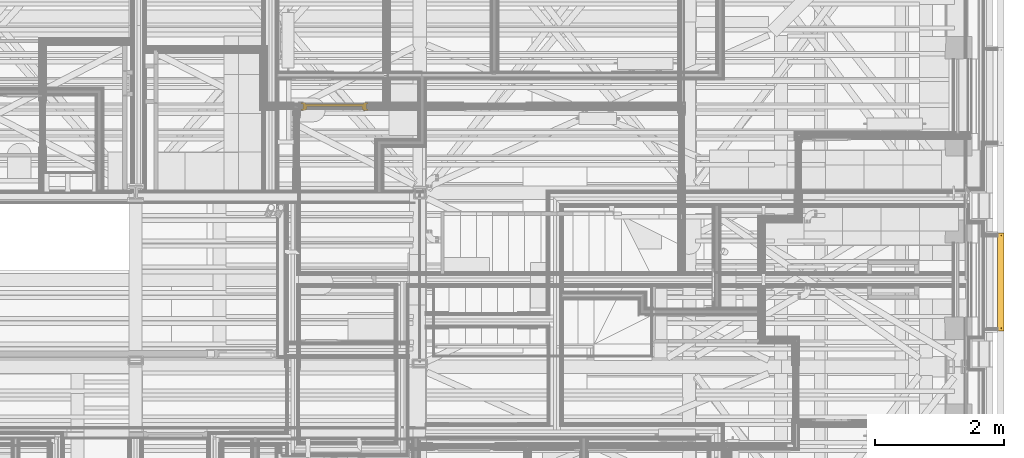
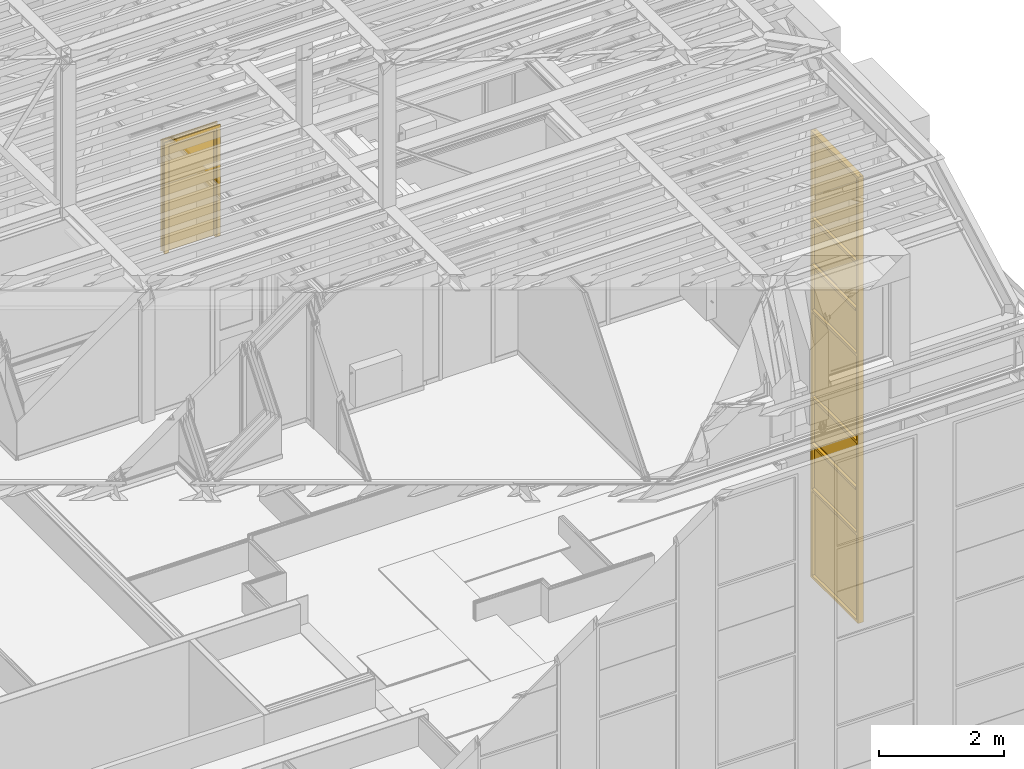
# One storey, part 146 of 183: 1 curtain wall, 1 door.
"""IFC2X3 building model written with IfcOpenShell, lengths in metres."""

from ifc_helpers import new_model, entity, si_unit, converted_unit, derived_unit, money_unit, direction, frame, origin_with_axes, place, context, subcontext, project, spatial, faceted_brep, material, type_object, element, save


model = new_model("IFC2X3")

# Units and contexts
model_context = context("Model", 3, precision=1e-05, world=origin_with_axes(), true_north=direction((0.0, 1.0)))
body_context = subcontext(model_context, "Body", "Model", "MODEL_VIEW", scale=1.0)
ifc_project = project(units=[si_unit("LENGTHUNIT", "METRE"), si_unit("AREAUNIT", "SQUARE_METRE"), si_unit("VOLUMEUNIT", "CUBIC_METRE"), si_unit("ABSORBEDDOSEUNIT", "GRAY"), si_unit("AMOUNTOFSUBSTANCEUNIT", "MOLE"), si_unit("DOSEEQUIVALENTUNIT", "SIEVERT"), si_unit("ELECTRICCAPACITANCEUNIT", "FARAD"), si_unit("ELECTRICCHARGEUNIT", "COULOMB"), si_unit("ELECTRICCONDUCTANCEUNIT", "SIEMENS"), si_unit("ELECTRICCURRENTUNIT", "AMPERE"), si_unit("ELECTRICRESISTANCEUNIT", "OHM"), si_unit("ELECTRICVOLTAGEUNIT", "VOLT"), si_unit("ENERGYUNIT", "JOULE"), si_unit("FORCEUNIT", "NEWTON"), si_unit("FREQUENCYUNIT", "HERTZ"), si_unit("ILLUMINANCEUNIT", "LUX"), si_unit("INDUCTANCEUNIT", "HENRY"), si_unit("LUMINOUSFLUXUNIT", "LUMEN"), si_unit("LUMINOUSINTENSITYUNIT", "CANDELA"), si_unit("MAGNETICFLUXDENSITYUNIT", "TESLA"), si_unit("MAGNETICFLUXUNIT", "WEBER"), si_unit("MASSUNIT", "GRAM"), converted_unit("PLANEANGLEUNIT", "degree", entity("IfcReal", 0.0174532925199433), si_unit("PLANEANGLEUNIT", "RADIAN"), dimensions=[0, 0, 0, 0, 0, 0, 0]), si_unit("POWERUNIT", "WATT"), si_unit("PRESSUREUNIT", "PASCAL"), si_unit("RADIOACTIVITYUNIT", "BECQUEREL"), si_unit("SOLIDANGLEUNIT", "STERADIAN"), si_unit("THERMODYNAMICTEMPERATUREUNIT", "KELVIN"), si_unit("TIMEUNIT", "SECOND"), derived_unit("ACCELERATIONUNIT", [(si_unit("LENGTHUNIT", "METRE"), 1), (si_unit("TIMEUNIT", "SECOND"), -2)]), derived_unit("ANGULARVELOCITYUNIT", [(converted_unit("PLANEANGLEUNIT", "degree", entity("IfcReal", 0.0174532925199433), si_unit("PLANEANGLEUNIT", "RADIAN"), dimensions=[0, 0, 0, 0, 0, 0, 0]), 1), (si_unit("TIMEUNIT", "SECOND"), -1)]), derived_unit("CURVATUREUNIT", [(converted_unit("PLANEANGLEUNIT", "degree", entity("IfcReal", 0.0174532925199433), si_unit("PLANEANGLEUNIT", "RADIAN"), dimensions=[0, 0, 0, 0, 0, 0, 0]), 1), (si_unit("LENGTHUNIT", "METRE"), -1)]), derived_unit("DYNAMICVISCOSITYUNIT", [(si_unit("PRESSUREUNIT", "PASCAL"), 1), (si_unit("TIMEUNIT", "SECOND"), 1)]), derived_unit("HEATFLUXDENSITYUNIT", [(si_unit("POWERUNIT", "WATT"), 1), (si_unit("LENGTHUNIT", "METRE"), -2)]), derived_unit("HEATINGVALUEUNIT", [(si_unit("ENERGYUNIT", "JOULE"), 1), (si_unit("MASSUNIT", "GRAM"), -1)]), derived_unit("INTEGERCOUNTRATEUNIT", [(si_unit("TIMEUNIT", "SECOND"), -1)]), derived_unit("IONCONCENTRATIONUNIT", [(si_unit("MASSUNIT", "GRAM"), 1), (si_unit("VOLUMEUNIT", "CUBIC_METRE"), -1)]), derived_unit("ISOTHERMALMOISTURECAPACITYUNIT", [(si_unit("VOLUMEUNIT", "CUBIC_METRE"), 1), (si_unit("MASSUNIT", "GRAM"), -1)]), derived_unit("KINEMATICVISCOSITYUNIT", [(si_unit("AREAUNIT", "SQUARE_METRE"), 1), (si_unit("TIMEUNIT", "SECOND"), -1)]), derived_unit("LINEARFORCEUNIT", [(si_unit("FORCEUNIT", "NEWTON"), 1), (si_unit("LENGTHUNIT", "METRE"), -1)]), derived_unit("LINEARMOMENTUNIT", [(si_unit("FORCEUNIT", "NEWTON"), 1), (si_unit("LENGTHUNIT", "METRE"), -1)]), derived_unit("LINEARSTIFFNESSUNIT", [(si_unit("FORCEUNIT", "NEWTON"), 1), (si_unit("LENGTHUNIT", "METRE"), -1)]), derived_unit("LINEARVELOCITYUNIT", [(si_unit("LENGTHUNIT", "METRE"), 1), (si_unit("TIMEUNIT", "SECOND"), -1)]), derived_unit("LUMINOUSINTENSITYDISTRIBUTIONUNIT", [(si_unit("LUMINOUSINTENSITYUNIT", "CANDELA"), 1), (si_unit("LUMINOUSFLUXUNIT", "LUMEN"), -1)]), derived_unit("MASSDENSITYUNIT", [(si_unit("MASSUNIT", "GRAM"), 1), (si_unit("VOLUMEUNIT", "CUBIC_METRE"), -1)]), derived_unit("MASSFLOWRATEUNIT", [(si_unit("MASSUNIT", "GRAM"), 1), (si_unit("TIMEUNIT", "SECOND"), -1)]), derived_unit("MASSPERLENGTHUNIT", [(si_unit("MASSUNIT", "GRAM"), 1), (si_unit("LENGTHUNIT", "METRE"), -1)]), derived_unit("MODULUSOFELASTICITYUNIT", [(si_unit("FORCEUNIT", "NEWTON"), 1), (si_unit("AREAUNIT", "SQUARE_METRE"), -1)]), derived_unit("MODULUSOFLINEARSUBGRADEREACTIONUNIT", [(si_unit("FORCEUNIT", "NEWTON"), 1), (si_unit("LENGTHUNIT", "METRE"), -2)]), derived_unit("MODULUSOFROTATIONALSUBGRADEREACTIONUNIT", [(si_unit("FORCEUNIT", "NEWTON"), 1), (si_unit("LENGTHUNIT", "METRE"), 1)]), derived_unit("MODULUSOFSUBGRADEREACTIONUNIT", [(si_unit("FORCEUNIT", "NEWTON"), 1), (si_unit("VOLUMEUNIT", "CUBIC_METRE"), -1)]), derived_unit("MOISTUREDIFFUSIVITYUNIT", [(si_unit("VOLUMEUNIT", "CUBIC_METRE"), 1), (si_unit("TIMEUNIT", "SECOND"), -1)]), derived_unit("MOLECULARWEIGHTUNIT", [(si_unit("MASSUNIT", "GRAM"), 1), (si_unit("AMOUNTOFSUBSTANCEUNIT", "MOLE"), -1)]), derived_unit("PLANARFORCEUNIT", [(si_unit("FORCEUNIT", "NEWTON"), 1), (si_unit("LENGTHUNIT", "METRE"), -2)]), derived_unit("ROTATIONALFREQUENCYUNIT", [(si_unit("TIMEUNIT", "SECOND"), -1)]), derived_unit("ROTATIONALMASSUNIT", [(si_unit("MASSUNIT", "GRAM"), 1), (si_unit("LENGTHUNIT", "METRE"), 2)]), derived_unit("ROTATIONALSTIFFNESSUNIT", [(si_unit("FORCEUNIT", "NEWTON"), 1), (si_unit("LENGTHUNIT", "METRE"), 1), (converted_unit("PLANEANGLEUNIT", "degree", entity("IfcReal", 0.0174532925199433), si_unit("PLANEANGLEUNIT", "RADIAN"), dimensions=[0, 0, 0, 0, 0, 0, 0]), -1)]), derived_unit("SECTIONAREAINTEGRALUNIT", [(si_unit("LENGTHUNIT", "METRE"), 5)]), derived_unit("SECTIONMODULUSUNIT", [(si_unit("LENGTHUNIT", "METRE"), 3)]), derived_unit("SHEARMODULUSUNIT", [(si_unit("FORCEUNIT", "NEWTON"), 1), (si_unit("AREAUNIT", "SQUARE_METRE"), -1)]), derived_unit("SOUNDPOWERUNIT", [(si_unit("ENERGYUNIT", "JOULE"), 1), (si_unit("TIMEUNIT", "SECOND"), -1)]), derived_unit("SPECIFICHEATCAPACITYUNIT", [(si_unit("FORCEUNIT", "NEWTON"), 1), (si_unit("MASSUNIT", "GRAM"), -1), (si_unit("THERMODYNAMICTEMPERATUREUNIT", "KELVIN"), -1)]), derived_unit("TEMPERATUREGRADIENTUNIT", [(si_unit("THERMODYNAMICTEMPERATUREUNIT", "KELVIN"), 1), (si_unit("LENGTHUNIT", "METRE"), -1)]), derived_unit("THERMALADMITTANCEUNIT", [(si_unit("POWERUNIT", "WATT"), 1), (si_unit("AREAUNIT", "SQUARE_METRE"), -1), (si_unit("THERMODYNAMICTEMPERATUREUNIT", "KELVIN"), -1)]), derived_unit("THERMALCONDUCTANCEUNIT", [(si_unit("POWERUNIT", "WATT"), 1), (si_unit("LENGTHUNIT", "METRE"), -1), (si_unit("THERMODYNAMICTEMPERATUREUNIT", "KELVIN"), -1)]), derived_unit("THERMALEXPANSIONCOEFFICIENTUNIT", [(si_unit("THERMODYNAMICTEMPERATUREUNIT", "KELVIN"), -1)]), derived_unit("THERMALRESISTANCEUNIT", [(si_unit("AREAUNIT", "SQUARE_METRE"), 1), (si_unit("POWERUNIT", "WATT"), -1)]), derived_unit("THERMALTRANSMITTANCEUNIT", [(si_unit("POWERUNIT", "WATT"), 1), (si_unit("AREAUNIT", "SQUARE_METRE"), -1), (si_unit("THERMODYNAMICTEMPERATUREUNIT", "KELVIN"), -1)]), derived_unit("TORQUEUNIT", [(si_unit("FORCEUNIT", "NEWTON"), 1), (si_unit("LENGTHUNIT", "METRE"), 1)]), derived_unit("VAPORPERMEABILITYUNIT", [(si_unit("MASSUNIT", "GRAM"), 1), (si_unit("TIMEUNIT", "SECOND"), -1)]), derived_unit("VOLUMETRICFLOWRATEUNIT", [(si_unit("VOLUMEUNIT", "CUBIC_METRE"), 1), (si_unit("TIMEUNIT", "SECOND"), -1)]), derived_unit("WARPINGCONSTANTUNIT", [(si_unit("LENGTHUNIT", "METRE"), 6)]), derived_unit("WARPINGMOMENTUNIT", [(si_unit("FORCEUNIT", "NEWTON"), 1), (si_unit("LENGTHUNIT", "METRE"), 2)]), money_unit("GBP")], contexts=[model_context])

# Site, building, storey
site_placement = place(None, origin_with_axes())
site = spatial("IfcSite", under=ifc_project, at=site_placement, Name="Site", CompositionType="ELEMENT")
building_placement = place(site_placement, origin_with_axes())
building = spatial("IfcBuilding", under=site, at=building_placement, Name="Building01", CompositionType="ELEMENT")
storey_placement = place(building_placement, frame((0.0, 0.0, 5.15), z_axis=(0.0, 0.0, 1.0), x_axis=(1.0, 0.0, 0.0)))
storey = spatial("IfcBuildingStorey", under=building, at=storey_placement, Name="1F", CompositionType="ELEMENT", Elevation=5.15)

# Curtain wall
ifc_material_1 = material(Name="A-CurtainWall_Frame")
curtain_wall_type = type_object("IfcCurtainWallType", Name="Pattern - Maximum Spacing", PredefinedType="NOTDEFINED")
curtain_wall_placement = place(storey_placement, frame((0.0, 0.0, -5.15), z_axis=(0.0, 0.0, 1.0), x_axis=(1.0, 0.0, 0.0)))
element("IfcCurtainWall", 1, at=curtain_wall_placement, inside=storey, type_object=curtain_wall_type, material=ifc_material_1, Name="29", ObjectType="Pattern - Maximum Spacing", context=body_context, shape_type="Brep", body=[
    faceted_brep([(26.935, 6.687326, 6.050108), (26.945, 6.687326, 6.050108), (26.945, 6.687326, 7.734233), (26.935, 6.687326, 7.734233), (26.935, 8.147326, 6.050108), (26.945, 8.147326, 6.050108), (26.935, 8.147326, 7.734233), (26.945, 8.147326, 7.734233)], [[[0, 1, 2, 3]], [[4, 5, 1, 0]], [[6, 7, 5, 4]], [[3, 2, 7, 6]], [[1, 5, 7, 2]], [[3, 6, 4, 0]]]),
    faceted_brep([(26.935, 6.687326, 6.020108), (26.945, 6.687326, 6.020108), (26.945, 6.707326, 6.020108), (26.98, 6.707326, 6.020108), (26.98, 6.657326, 6.020108), (26.88, 6.657326, 6.020108), (26.88, 6.707326, 6.020108), (26.935, 6.707326, 6.020108), (26.935, 6.707326, 7.739233), (26.935, 6.687326, 7.739233), (26.945, 6.687326, 7.739233), (26.945, 6.707326, 7.739233), (26.98, 6.707326, 7.739233), (26.98, 6.657326, 7.739233), (26.88, 6.657326, 7.739233), (26.88, 6.707326, 7.739233)], [[[0, 1, 2, 3, 4, 5, 6, 7]], [[7, 8, 9, 0]], [[0, 9, 10, 1]], [[1, 10, 11, 2]], [[2, 11, 12, 3]], [[3, 12, 13, 4]], [[4, 13, 14, 5]], [[5, 14, 15, 6]], [[6, 15, 8, 7]]]),
    faceted_brep([(26.935, 8.127326, 6.050108), (26.945, 8.127326, 6.050108), (26.945, 8.127326, 6.070108), (26.98, 8.127326, 6.070108), (26.98, 8.127326, 6.020108), (26.88, 8.127326, 6.020108), (26.88, 8.127326, 6.070108), (26.935, 8.127326, 6.070108), (26.935, 6.707326, 6.070108), (26.935, 6.707326, 6.050108), (26.945, 6.707326, 6.050108), (26.945, 6.707326, 6.070108), (26.98, 6.707326, 6.070108), (26.98, 6.707326, 6.020108), (26.88, 6.707326, 6.020108), (26.88, 6.707326, 6.070108)], [[[0, 1, 2, 3, 4, 5, 6, 7]], [[7, 8, 9, 0]], [[0, 9, 10, 1]], [[1, 10, 11, 2]], [[2, 11, 12, 3]], [[3, 12, 13, 4]], [[4, 13, 14, 5]], [[5, 14, 15, 6]], [[6, 15, 8, 7]], [[8, 15, 14, 13, 12, 11, 10, 9]]]),
    faceted_brep([(26.88, 8.127326, 6.020108), (26.88, 8.127326, 7.739233), (26.88, 8.177326, 7.739233), (26.88, 8.177326, 6.020108), (26.935, 8.127326, 6.020108), (26.935, 8.127326, 7.739233), (26.935, 8.147326, 6.020108), (26.935, 8.147326, 7.739233), (26.945, 8.147326, 6.020108), (26.945, 8.147326, 7.739233), (26.945, 8.127326, 6.020108), (26.945, 8.127326, 7.739233), (26.98, 8.127326, 6.020108), (26.98, 8.127326, 7.739233), (26.98, 8.177326, 6.020108), (26.98, 8.177326, 7.739233)], [[[0, 1, 2, 3]], [[4, 5, 1, 0]], [[6, 7, 5, 4]], [[8, 9, 7, 6]], [[10, 11, 9, 8]], [[12, 13, 11, 10]], [[14, 15, 13, 12]], [[3, 2, 15, 14]], [[14, 12, 10, 8, 6, 4, 0, 3]]]),
    faceted_brep([(26.935, 6.707326, 7.734233), (26.945, 6.707326, 7.734233), (26.945, 6.707326, 7.714233), (26.98, 6.707326, 7.714233), (26.98, 6.707326, 7.764233), (26.945, 6.707326, 7.764233), (26.945, 6.707326, 7.744233), (26.935, 6.707326, 7.744233), (26.935, 6.707326, 7.764233), (26.88, 6.707326, 7.764233), (26.88, 6.707326, 7.714233), (26.935, 6.707326, 7.714233), (26.935, 8.127326, 7.714233), (26.935, 8.127326, 7.734233), (26.945, 8.127326, 7.734233), (26.945, 8.127326, 7.714233), (26.98, 8.127326, 7.714233), (26.98, 8.127326, 7.764233), (26.945, 8.127326, 7.764233), (26.935, 8.127326, 7.744233), (26.935, 8.127326, 7.764233), (26.945, 8.127326, 7.744233), (26.88, 8.127326, 7.714233), (26.88, 8.127326, 7.764233)], [[[0, 1, 2, 3, 4, 5, 6, 7, 8, 9, 10, 11]], [[11, 12, 13, 0]], [[0, 13, 14, 1]], [[1, 14, 15, 2]], [[2, 15, 16, 3]], [[3, 16, 17, 4]], [[4, 17, 18, 5]], [[7, 19, 20, 8]], [[6, 21, 19, 7]], [[5, 18, 21, 6]], [[10, 22, 12, 11]], [[9, 23, 22, 10]], [[8, 20, 23, 9]], [[20, 19, 21, 18, 17, 16, 15, 14, 13, 12, 22, 23]]]),
    faceted_brep([(26.93, 6.687326, 7.744233), (26.95, 6.687326, 7.744233), (26.95, 6.687326, 8.631122), (26.93, 6.687326, 8.631122), (26.93, 8.147326, 7.744233), (26.95, 8.147326, 7.744233), (26.93, 8.147326, 8.631122), (26.95, 8.147326, 8.631122)], [[[0, 1, 2, 3]], [[4, 5, 1, 0]], [[6, 7, 5, 4]], [[3, 2, 7, 6]], [[1, 5, 7, 2]], [[3, 6, 4, 0]]]),
    faceted_brep([(26.88, 6.707326, 8.636122), (26.88, 6.707326, 7.739233), (26.88, 6.657326, 7.739233), (26.88, 6.657326, 8.636122), (26.935, 6.707326, 8.636122), (26.935, 6.707326, 7.739233), (26.935, 6.687326, 8.636122), (26.935, 6.687326, 7.739233), (26.945, 6.687326, 8.636122), (26.945, 6.687326, 7.739233), (26.945, 6.707326, 8.636122), (26.945, 6.707326, 7.739233), (26.98, 6.707326, 8.636122), (26.98, 6.707326, 7.739233), (26.98, 6.657326, 8.636122), (26.98, 6.657326, 7.739233)], [[[0, 1, 2, 3]], [[4, 5, 1, 0]], [[6, 7, 5, 4]], [[8, 9, 7, 6]], [[10, 11, 9, 8]], [[12, 13, 11, 10]], [[14, 15, 13, 12]], [[3, 2, 15, 14]]]),
    faceted_brep([(26.88, 8.127326, 7.739233), (26.88, 8.127326, 8.636122), (26.88, 8.177326, 8.636122), (26.88, 8.177326, 7.739233), (26.935, 8.127326, 7.739233), (26.935, 8.127326, 8.636122), (26.935, 8.147326, 7.739233), (26.935, 8.147326, 8.636122), (26.945, 8.147326, 7.739233), (26.945, 8.147326, 8.636122), (26.945, 8.127326, 7.739233), (26.945, 8.127326, 8.636122), (26.98, 8.127326, 7.739233), (26.98, 8.127326, 8.636122), (26.98, 8.177326, 7.739233), (26.98, 8.177326, 8.636122)], [[[0, 1, 2, 3]], [[4, 5, 1, 0]], [[6, 7, 5, 4]], [[8, 9, 7, 6]], [[10, 11, 9, 8]], [[12, 13, 11, 10]], [[14, 15, 13, 12]], [[3, 2, 15, 14]]]),
    faceted_brep([(26.9175, 6.707326, 8.631122), (26.9275, 6.707326, 8.631122), (26.9275, 6.707326, 8.611122), (26.9625, 6.707326, 8.611122), (26.9625, 6.707326, 8.661122), (26.9275, 6.707326, 8.661122), (26.9275, 6.707326, 8.641122), (26.9175, 6.707326, 8.641122), (26.9175, 6.707326, 8.661122), (26.8625, 6.707326, 8.661122), (26.8625, 6.707326, 8.611122), (26.9175, 6.707326, 8.611122), (26.9175, 8.127326, 8.611122), (26.9175, 8.127326, 8.631122), (26.9275, 8.127326, 8.631122), (26.9275, 8.127326, 8.611122), (26.9625, 8.127326, 8.611122), (26.9625, 8.127326, 8.661122), (26.9275, 8.127326, 8.661122), (26.9175, 8.127326, 8.641122), (26.9175, 8.127326, 8.661122), (26.9275, 8.127326, 8.641122), (26.8625, 8.127326, 8.611122), (26.8625, 8.127326, 8.661122)], [[[0, 1, 2, 3, 4, 5, 6, 7, 8, 9, 10, 11]], [[11, 12, 13, 0]], [[0, 13, 14, 1]], [[1, 14, 15, 2]], [[2, 15, 16, 3]], [[3, 16, 17, 4]], [[4, 17, 18, 5]], [[7, 19, 20, 8]], [[6, 21, 19, 7]], [[5, 18, 21, 6]], [[10, 22, 12, 11]], [[9, 23, 22, 10]], [[8, 20, 23, 9]], [[20, 19, 21, 18, 17, 16, 15, 14, 13, 12, 22, 23]]]),
    faceted_brep([(26.93, 6.687326, 8.641122), (26.95, 6.687326, 8.641122), (26.95, 6.687326, 9.528011), (26.93, 6.687326, 9.528011), (26.93, 8.147326, 8.641122), (26.95, 8.147326, 8.641122), (26.93, 8.147326, 9.528011), (26.95, 8.147326, 9.528011)], [[[0, 1, 2, 3]], [[4, 5, 1, 0]], [[6, 7, 5, 4]], [[3, 2, 7, 6]], [[1, 5, 7, 2]], [[3, 6, 4, 0]]]),
    faceted_brep([(26.88, 6.707326, 9.533011), (26.88, 6.707326, 8.636122), (26.88, 6.657326, 8.636122), (26.88, 6.657326, 9.533011), (26.935, 6.707326, 9.533011), (26.935, 6.707326, 8.636122), (26.935, 6.687326, 9.533011), (26.935, 6.687326, 8.636122), (26.945, 6.687326, 9.533011), (26.945, 6.687326, 8.636122), (26.945, 6.707326, 9.533011), (26.945, 6.707326, 8.636122), (26.98, 6.707326, 9.533011), (26.98, 6.707326, 8.636122), (26.98, 6.657326, 9.533011), (26.98, 6.657326, 8.636122)], [[[0, 1, 2, 3]], [[4, 5, 1, 0]], [[6, 7, 5, 4]], [[8, 9, 7, 6]], [[10, 11, 9, 8]], [[12, 13, 11, 10]], [[14, 15, 13, 12]], [[3, 2, 15, 14]]]),
    faceted_brep([(26.88, 8.127326, 8.636122), (26.88, 8.127326, 9.533011), (26.88, 8.177326, 9.533011), (26.88, 8.177326, 8.636122), (26.935, 8.127326, 8.636122), (26.935, 8.127326, 9.533011), (26.935, 8.147326, 8.636122), (26.935, 8.147326, 9.533011), (26.945, 8.147326, 8.636122), (26.945, 8.147326, 9.533011), (26.945, 8.127326, 8.636122), (26.945, 8.127326, 9.533011), (26.98, 8.127326, 8.636122), (26.98, 8.127326, 9.533011), (26.98, 8.177326, 8.636122), (26.98, 8.177326, 9.533011)], [[[0, 1, 2, 3]], [[4, 5, 1, 0]], [[6, 7, 5, 4]], [[8, 9, 7, 6]], [[10, 11, 9, 8]], [[12, 13, 11, 10]], [[14, 15, 13, 12]], [[3, 2, 15, 14]]]),
    faceted_brep([(26.935, 6.707326, 9.528011), (26.945, 6.707326, 9.528011), (26.945, 6.707326, 9.508011), (26.98, 6.707326, 9.508011), (26.98, 6.707326, 9.558011), (26.945, 6.707326, 9.558011), (26.945, 6.707326, 9.538011), (26.935, 6.707326, 9.538011), (26.935, 6.707326, 9.558011), (26.88, 6.707326, 9.558011), (26.88, 6.707326, 9.508011), (26.935, 6.707326, 9.508011), (26.935, 8.127326, 9.508011), (26.935, 8.127326, 9.528011), (26.945, 8.127326, 9.528011), (26.945, 8.127326, 9.508011), (26.98, 8.127326, 9.508011), (26.98, 8.127326, 9.558011), (26.945, 8.127326, 9.558011), (26.935, 8.127326, 9.538011), (26.935, 8.127326, 9.558011), (26.945, 8.127326, 9.538011), (26.88, 8.127326, 9.508011), (26.88, 8.127326, 9.558011)], [[[0, 1, 2, 3, 4, 5, 6, 7, 8, 9, 10, 11]], [[11, 12, 13, 0]], [[0, 13, 14, 1]], [[1, 14, 15, 2]], [[2, 15, 16, 3]], [[3, 16, 17, 4]], [[4, 17, 18, 5]], [[7, 19, 20, 8]], [[6, 21, 19, 7]], [[5, 18, 21, 6]], [[10, 22, 12, 11]], [[9, 23, 22, 10]], [[8, 20, 23, 9]], [[20, 19, 21, 18, 17, 16, 15, 14, 13, 12, 22, 23]]]),
    faceted_brep([(26.935, 6.687326, 9.538011), (26.945, 6.687326, 9.538011), (26.945, 6.687326, 11.222136), (26.935, 6.687326, 11.222136), (26.935, 8.147326, 9.538011), (26.945, 8.147326, 9.538011), (26.935, 8.147326, 11.222136), (26.945, 8.147326, 11.222136)], [[[0, 1, 2, 3]], [[4, 5, 1, 0]], [[6, 7, 5, 4]], [[3, 2, 7, 6]], [[1, 5, 7, 2]], [[3, 6, 4, 0]]]),
    faceted_brep([(26.88, 6.707326, 11.227136), (26.88, 6.707326, 9.533011), (26.88, 6.657326, 9.533011), (26.88, 6.657326, 11.227136), (26.935, 6.707326, 11.227136), (26.935, 6.707326, 9.533011), (26.935, 6.687326, 11.227136), (26.935, 6.687326, 9.533011), (26.945, 6.687326, 11.227136), (26.945, 6.687326, 9.533011), (26.945, 6.707326, 11.227136), (26.945, 6.707326, 9.533011), (26.98, 6.707326, 11.227136), (26.98, 6.707326, 9.533011), (26.98, 6.657326, 11.227136), (26.98, 6.657326, 9.533011)], [[[0, 1, 2, 3]], [[4, 5, 1, 0]], [[6, 7, 5, 4]], [[8, 9, 7, 6]], [[10, 11, 9, 8]], [[12, 13, 11, 10]], [[14, 15, 13, 12]], [[3, 2, 15, 14]]]),
    faceted_brep([(26.88, 8.127326, 9.533011), (26.88, 8.127326, 11.227136), (26.88, 8.177326, 11.227136), (26.88, 8.177326, 9.533011), (26.935, 8.127326, 9.533011), (26.935, 8.127326, 11.227136), (26.935, 8.147326, 9.533011), (26.935, 8.147326, 11.227136), (26.945, 8.147326, 9.533011), (26.945, 8.147326, 11.227136), (26.945, 8.127326, 9.533011), (26.945, 8.127326, 11.227136), (26.98, 8.127326, 9.533011), (26.98, 8.127326, 11.227136), (26.98, 8.177326, 9.533011), (26.98, 8.177326, 11.227136)], [[[0, 1, 2, 3]], [[4, 5, 1, 0]], [[6, 7, 5, 4]], [[8, 9, 7, 6]], [[10, 11, 9, 8]], [[12, 13, 11, 10]], [[14, 15, 13, 12]], [[3, 2, 15, 14]]]),
    faceted_brep([(26.935, 6.707326, 11.222136), (26.945, 6.707326, 11.222136), (26.945, 6.707326, 11.202136), (26.98, 6.707326, 11.202136), (26.98, 6.707326, 11.252136), (26.945, 6.707326, 11.252136), (26.945, 6.707326, 11.232136), (26.935, 6.707326, 11.232136), (26.935, 6.707326, 11.252136), (26.88, 6.707326, 11.252136), (26.88, 6.707326, 11.202136), (26.935, 6.707326, 11.202136), (26.935, 8.127326, 11.202136), (26.935, 8.127326, 11.222136), (26.945, 8.127326, 11.222136), (26.945, 8.127326, 11.202136), (26.98, 8.127326, 11.202136), (26.98, 8.127326, 11.252136), (26.945, 8.127326, 11.252136), (26.935, 8.127326, 11.232136), (26.935, 8.127326, 11.252136), (26.945, 8.127326, 11.232136), (26.88, 8.127326, 11.202136), (26.88, 8.127326, 11.252136)], [[[0, 1, 2, 3, 4, 5, 6, 7, 8, 9, 10, 11]], [[11, 12, 13, 0]], [[0, 13, 14, 1]], [[1, 14, 15, 2]], [[2, 15, 16, 3]], [[3, 16, 17, 4]], [[4, 17, 18, 5]], [[7, 19, 20, 8]], [[6, 21, 19, 7]], [[5, 18, 21, 6]], [[10, 22, 12, 11]], [[9, 23, 22, 10]], [[8, 20, 23, 9]], [[20, 19, 21, 18, 17, 16, 15, 14, 13, 12, 22, 23]]]),
    faceted_brep([(26.93, 6.687326, 11.232136), (26.95, 6.687326, 11.232136), (26.95, 6.687326, 12.119025), (26.93, 6.687326, 12.119025), (26.93, 8.147326, 11.232136), (26.95, 8.147326, 11.232136), (26.93, 8.147326, 12.119025), (26.95, 8.147326, 12.119025)], [[[0, 1, 2, 3]], [[4, 5, 1, 0]], [[6, 7, 5, 4]], [[3, 2, 7, 6]], [[1, 5, 7, 2]], [[3, 6, 4, 0]]]),
    faceted_brep([(26.88, 6.707326, 12.124025), (26.88, 6.707326, 11.227136), (26.88, 6.657326, 11.227136), (26.88, 6.657326, 12.124025), (26.935, 6.707326, 12.124025), (26.935, 6.707326, 11.227136), (26.935, 6.687326, 12.124025), (26.935, 6.687326, 11.227136), (26.945, 6.687326, 12.124025), (26.945, 6.687326, 11.227136), (26.945, 6.707326, 12.124025), (26.945, 6.707326, 11.227136), (26.98, 6.707326, 12.124025), (26.98, 6.707326, 11.227136), (26.98, 6.657326, 12.124025), (26.98, 6.657326, 11.227136)], [[[0, 1, 2, 3]], [[4, 5, 1, 0]], [[6, 7, 5, 4]], [[8, 9, 7, 6]], [[10, 11, 9, 8]], [[12, 13, 11, 10]], [[14, 15, 13, 12]], [[3, 2, 15, 14]]]),
    faceted_brep([(26.88, 8.127326, 11.227136), (26.88, 8.127326, 12.124025), (26.88, 8.177326, 12.124025), (26.88, 8.177326, 11.227136), (26.935, 8.127326, 11.227136), (26.935, 8.127326, 12.124025), (26.935, 8.147326, 11.227136), (26.935, 8.147326, 12.124025), (26.945, 8.147326, 11.227136), (26.945, 8.147326, 12.124025), (26.945, 8.127326, 11.227136), (26.945, 8.127326, 12.124025), (26.98, 8.127326, 11.227136), (26.98, 8.127326, 12.124025), (26.98, 8.177326, 11.227136), (26.98, 8.177326, 12.124025)], [[[0, 1, 2, 3]], [[4, 5, 1, 0]], [[6, 7, 5, 4]], [[8, 9, 7, 6]], [[10, 11, 9, 8]], [[12, 13, 11, 10]], [[14, 15, 13, 12]], [[3, 2, 15, 14]]]),
    faceted_brep([(26.9175, 6.707326, 12.119025), (26.9275, 6.707326, 12.119025), (26.9275, 6.707326, 12.099025), (26.9625, 6.707326, 12.099025), (26.9625, 6.707326, 12.149025), (26.9275, 6.707326, 12.149025), (26.9275, 6.707326, 12.129025), (26.9175, 6.707326, 12.129025), (26.9175, 6.707326, 12.149025), (26.8625, 6.707326, 12.149025), (26.8625, 6.707326, 12.099025), (26.9175, 6.707326, 12.099025), (26.9175, 8.127326, 12.099025), (26.9175, 8.127326, 12.119025), (26.9275, 8.127326, 12.119025), (26.9275, 8.127326, 12.099025), (26.9625, 8.127326, 12.099025), (26.9625, 8.127326, 12.149025), (26.9275, 8.127326, 12.149025), (26.9175, 8.127326, 12.129025), (26.9175, 8.127326, 12.149025), (26.9275, 8.127326, 12.129025), (26.8625, 8.127326, 12.099025), (26.8625, 8.127326, 12.149025)], [[[0, 1, 2, 3, 4, 5, 6, 7, 8, 9, 10, 11]], [[11, 12, 13, 0]], [[0, 13, 14, 1]], [[1, 14, 15, 2]], [[2, 15, 16, 3]], [[3, 16, 17, 4]], [[4, 17, 18, 5]], [[7, 19, 20, 8]], [[6, 21, 19, 7]], [[5, 18, 21, 6]], [[10, 22, 12, 11]], [[9, 23, 22, 10]], [[8, 20, 23, 9]], [[20, 19, 21, 18, 17, 16, 15, 14, 13, 12, 22, 23]]]),
    faceted_brep([(26.935, 8.147326, 14.690108), (26.945, 8.147326, 14.690108), (26.945, 8.147326, 13.025915), (26.935, 8.147326, 13.025915), (26.935, 6.687326, 14.690108), (26.945, 6.687326, 14.690108), (26.935, 6.687326, 13.025915), (26.945, 6.687326, 13.025915)], [[[0, 1, 2, 3]], [[4, 5, 1, 0]], [[6, 7, 5, 4]], [[3, 2, 7, 6]], [[1, 5, 7, 2]], [[3, 6, 4, 0]]]),
    faceted_brep([(26.88, 8.127326, 14.720108), (26.935, 8.127326, 14.720108), (26.935, 8.147326, 14.720108), (26.945, 8.147326, 14.720108), (26.945, 8.127326, 14.720108), (26.98, 8.127326, 14.720108), (26.98, 8.177326, 14.720108), (26.88, 8.177326, 14.720108), (26.88, 8.177326, 13.020915), (26.88, 8.127326, 13.020915), (26.935, 8.127326, 13.020915), (26.935, 8.147326, 13.020915), (26.945, 8.147326, 13.020915), (26.945, 8.127326, 13.020915), (26.98, 8.127326, 13.020915), (26.98, 8.177326, 13.020915)], [[[0, 1, 2, 3, 4, 5, 6, 7]], [[7, 8, 9, 0]], [[0, 9, 10, 1]], [[1, 10, 11, 2]], [[2, 11, 12, 3]], [[3, 12, 13, 4]], [[4, 13, 14, 5]], [[5, 14, 15, 6]], [[6, 15, 8, 7]]]),
    faceted_brep([(26.88, 6.707326, 14.670108), (26.935, 6.707326, 14.670108), (26.935, 6.707326, 14.690108), (26.945, 6.707326, 14.690108), (26.945, 6.707326, 14.670108), (26.98, 6.707326, 14.670108), (26.98, 6.707326, 14.720108), (26.88, 6.707326, 14.720108), (26.88, 8.127326, 14.720108), (26.88, 8.127326, 14.670108), (26.935, 8.127326, 14.670108), (26.935, 8.127326, 14.690108), (26.945, 8.127326, 14.690108), (26.945, 8.127326, 14.670108), (26.98, 8.127326, 14.670108), (26.98, 8.127326, 14.720108)], [[[0, 1, 2, 3, 4, 5, 6, 7]], [[7, 8, 9, 0]], [[0, 9, 10, 1]], [[1, 10, 11, 2]], [[2, 11, 12, 3]], [[3, 12, 13, 4]], [[4, 13, 14, 5]], [[5, 14, 15, 6]], [[6, 15, 8, 7]], [[8, 15, 14, 13, 12, 11, 10, 9]]]),
    faceted_brep([(26.935, 6.687326, 14.720108), (26.935, 6.687326, 13.020915), (26.935, 6.707326, 13.020915), (26.935, 6.707326, 14.720108), (26.945, 6.687326, 14.720108), (26.945, 6.687326, 13.020915), (26.945, 6.707326, 14.720108), (26.945, 6.707326, 13.020915), (26.98, 6.707326, 14.720108), (26.98, 6.707326, 13.020915), (26.98, 6.657326, 14.720108), (26.98, 6.657326, 13.020915), (26.88, 6.657326, 14.720108), (26.88, 6.657326, 13.020915), (26.88, 6.707326, 14.720108), (26.88, 6.707326, 13.020915)], [[[0, 1, 2, 3]], [[4, 5, 1, 0]], [[6, 7, 5, 4]], [[8, 9, 7, 6]], [[10, 11, 9, 8]], [[12, 13, 11, 10]], [[14, 15, 13, 12]], [[3, 2, 15, 14]], [[14, 12, 10, 8, 6, 4, 0, 3]]]),
    faceted_brep([(26.945, 8.127326, 13.015915), (26.935, 8.127326, 13.015915), (26.935, 8.127326, 12.995915), (26.88, 8.127326, 12.995915), (26.88, 8.127326, 13.045915), (26.935, 8.127326, 13.045915), (26.935, 8.127326, 13.025915), (26.945, 8.127326, 13.025915), (26.945, 8.127326, 13.045915), (26.98, 8.127326, 13.045915), (26.98, 8.127326, 12.995915), (26.945, 8.127326, 12.995915), (26.945, 6.707326, 12.995915), (26.945, 6.707326, 13.015915), (26.935, 6.707326, 13.015915), (26.935, 6.707326, 12.995915), (26.88, 6.707326, 12.995915), (26.88, 6.707326, 13.045915), (26.935, 6.707326, 13.045915), (26.945, 6.707326, 13.025915), (26.945, 6.707326, 13.045915), (26.935, 6.707326, 13.025915), (26.98, 6.707326, 12.995915), (26.98, 6.707326, 13.045915)], [[[0, 1, 2, 3, 4, 5, 6, 7, 8, 9, 10, 11]], [[11, 12, 13, 0]], [[0, 13, 14, 1]], [[1, 14, 15, 2]], [[2, 15, 16, 3]], [[3, 16, 17, 4]], [[4, 17, 18, 5]], [[7, 19, 20, 8]], [[6, 21, 19, 7]], [[5, 18, 21, 6]], [[10, 22, 12, 11]], [[9, 23, 22, 10]], [[8, 20, 23, 9]], [[20, 19, 21, 18, 17, 16, 15, 14, 13, 12, 22, 23]]]),
    faceted_brep([(26.93, 6.687326, 12.129025), (26.95, 6.687326, 12.129025), (26.95, 6.687326, 13.015915), (26.93, 6.687326, 13.015915), (26.93, 8.147326, 12.129025), (26.95, 8.147326, 12.129025), (26.93, 8.147326, 13.015915), (26.95, 8.147326, 13.015915)], [[[0, 1, 2, 3]], [[4, 5, 1, 0]], [[6, 7, 5, 4]], [[3, 2, 7, 6]], [[1, 5, 7, 2]], [[3, 6, 4, 0]]]),
    faceted_brep([(26.88, 6.707326, 13.020915), (26.88, 6.707326, 12.124025), (26.88, 6.657326, 12.124025), (26.88, 6.657326, 13.020915), (26.935, 6.707326, 13.020915), (26.935, 6.707326, 12.124025), (26.935, 6.687326, 13.020915), (26.935, 6.687326, 12.124025), (26.945, 6.687326, 13.020915), (26.945, 6.687326, 12.124025), (26.945, 6.707326, 13.020915), (26.945, 6.707326, 12.124025), (26.98, 6.707326, 13.020915), (26.98, 6.707326, 12.124025), (26.98, 6.657326, 13.020915), (26.98, 6.657326, 12.124025)], [[[0, 1, 2, 3]], [[4, 5, 1, 0]], [[6, 7, 5, 4]], [[8, 9, 7, 6]], [[10, 11, 9, 8]], [[12, 13, 11, 10]], [[14, 15, 13, 12]], [[3, 2, 15, 14]]]),
    faceted_brep([(26.88, 8.127326, 12.124025), (26.88, 8.127326, 13.020915), (26.88, 8.177326, 13.020915), (26.88, 8.177326, 12.124025), (26.935, 8.127326, 12.124025), (26.935, 8.127326, 13.020915), (26.935, 8.147326, 12.124025), (26.935, 8.147326, 13.020915), (26.945, 8.147326, 12.124025), (26.945, 8.147326, 13.020915), (26.945, 8.127326, 12.124025), (26.945, 8.127326, 13.020915), (26.98, 8.127326, 12.124025), (26.98, 8.127326, 13.020915), (26.98, 8.177326, 12.124025), (26.98, 8.177326, 13.020915)], [[[0, 1, 2, 3]], [[4, 5, 1, 0]], [[6, 7, 5, 4]], [[8, 9, 7, 6]], [[10, 11, 9, 8]], [[12, 13, 11, 10]], [[14, 15, 13, 12]], [[3, 2, 15, 14]]]),
])

# Space
space_placement = place(storey_placement, frame((16.03844, 8.82, 9.81), z_axis=(0.0, 0.0, 1.0), x_axis=(0.0, -1.0, 0.0)))
space = spatial("IfcSpace", under=storey, at=space_placement, Name="23", CompositionType="ELEMENT", InteriorOrExteriorSpace="NOTDEFINED")

# Door
ifc_material_2 = material(Name="A_BSUK_Doors")
door_style = type_object("IfcDoorStyle", Name="A-Doors-SingleFlush", ConstructionType="USERDEFINED", OperationType="SINGLE_SWING_RIGHT", ParameterTakesPrecedence=False, Sizeable=False)
door_placement = place(storey_placement, frame((16.13844, 10.179939, 9.78), z_axis=(0.0, 0.0, 1.0), x_axis=(1.0, 0.0, 0.0)))
element("IfcDoor", 2, at=door_placement, inside=space, type_object=door_style, material=ifc_material_2, Name="4.06", ObjectType="A-Doors-SingleFlush", OverallHeight=2.16900000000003, OverallWidth=1.03800000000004, context=body_context, shape_type="Brep", body=[
    faceted_brep([(0.9, -0.099, 0.0), (0.969, -0.099, 0.0), (0.969, -0.099, 2.169), (-0.069, -0.099, 2.169), (-0.069, -0.099, 0.0), (0.0, -0.099, 0.0), (0.0, -0.099, 2.1), (0.9, -0.099, 2.1), (-0.069, -0.08, 0.0), (-0.069, -0.08, 2.169), (0.969, -0.08, 2.169), (0.969, -0.08, 0.0), (0.9, 0.019, 0.0), (0.969, 0.019, 0.0), (0.969, 0.0, 0.0), (0.942, 0.0, 0.0), (0.942, -0.08, 0.0), (0.9, 0.019, 2.1), (0.0, 0.019, 2.1), (0.0, 0.019, 0.0), (-0.069, 0.019, 0.0), (-0.069, 0.019, 2.169), (0.969, 0.019, 2.169), (0.969, 0.0, 2.169), (0.942, -0.08, 2.142), (0.942, 0.0, 2.142), (-0.042, -0.08, 2.142), (-0.042, 0.0, 2.142), (-0.042, -0.08, 0.0), (-0.042, 0.0, 0.0), (-0.069, 0.0, 2.169), (-0.069, 0.0, 0.0)], [[[0, 1, 2, 3, 4, 5, 6, 7]], [[8, 4, 3, 9]], [[10, 2, 1, 11]], [[9, 3, 2, 10]], [[12, 13, 14, 15, 16, 11, 1, 0]], [[7, 17, 12, 0]], [[6, 18, 17, 7]], [[18, 19, 20, 21, 22, 13, 12, 17]], [[5, 19, 18, 6]], [[13, 22, 23, 14]], [[24, 16, 15, 25]], [[26, 24, 25, 27]], [[11, 16, 24, 26, 28, 8, 9, 10]], [[27, 29, 28, 26]], [[25, 15, 14, 23, 30, 31, 29, 27]], [[5, 4, 8, 28, 29, 31, 20, 19]], [[30, 21, 20, 31]], [[23, 22, 21, 30]]]),
    faceted_brep([(0.0, -0.09, 2.1), (0.0, -0.04, 2.1), (0.0, -0.04, 0.0), (0.0, -0.09, 0.0), (0.875, -0.09, 0.0), (0.9, -0.09, 0.0), (0.9, -0.09, 2.1), (0.025, -0.09, 0.0), (0.025, -0.09, 2.075), (0.875, -0.09, 2.075), (0.875, -0.04, 0.0), (0.9, -0.04, 0.0), (0.9, -0.04, 2.1), (0.025, -0.04, 2.075), (0.025, -0.04, 0.0), (0.875, -0.04, 2.075)], [[[0, 1, 2, 3]], [[4, 5, 6, 0, 3, 7, 8, 9]], [[10, 11, 5, 4]], [[6, 12, 1, 0]], [[5, 11, 12, 6]], [[13, 14, 2, 1, 12, 11, 10, 15]], [[7, 14, 13, 8]], [[7, 3, 2, 14]], [[9, 15, 10, 4]], [[8, 13, 15, 9]]]),
    faceted_brep([(0.9, -0.04, 0.0), (0.9, 0.0, 0.0), (0.9, 0.0, 2.1), (0.9, -0.04, 2.1), (0.0, -0.04, 2.1), (0.0, 0.0, 2.1), (0.0, 0.0, 0.0), (0.0, -0.04, 0.0)], [[[0, 1, 2, 3]], [[4, 5, 6, 7]], [[7, 6, 1, 0]], [[3, 4, 7, 0]], [[3, 2, 5, 4]], [[1, 6, 5, 2]]]),
])

save(model, "model.ifc")
